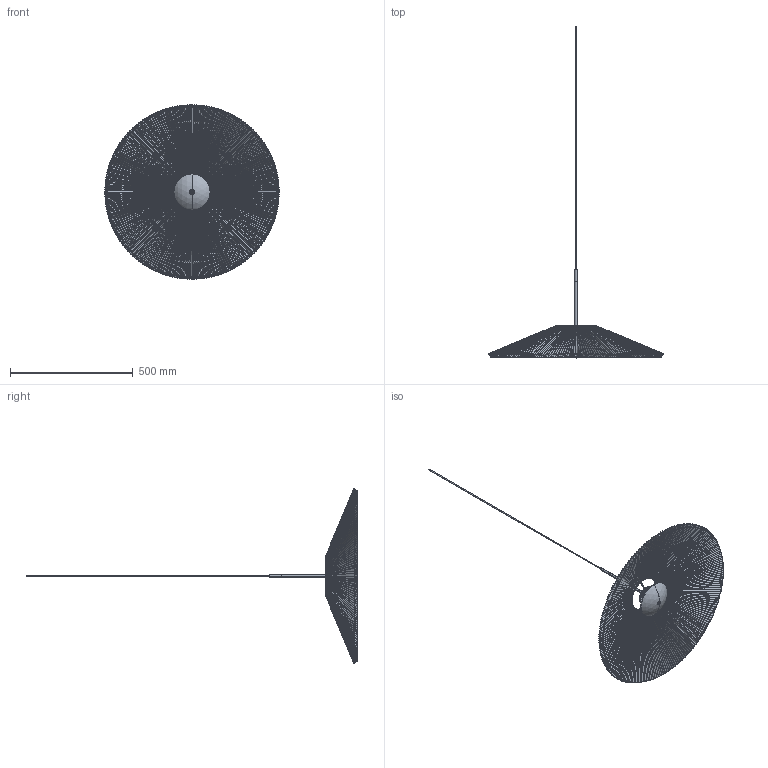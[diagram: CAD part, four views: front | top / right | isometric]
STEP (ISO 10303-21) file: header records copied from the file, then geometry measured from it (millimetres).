
FILE_DESCRIPTION (( 'STEP AP214' ), '1' );
FILE_NAME ('Nebra Small.STEP', '2024-01-24T11:53:32', ( '' ), ( '' ), 'SwSTEP 2.0', 'SolidWorks 2023', '' );
FILE_SCHEMA (( 'AUTOMOTIVE_DESIGN' ));
Length unit declared in the file: millimetre
Products named in the file (3): Pendant fitting; Pendant Shade Small; Nebra Small
Assembly tree (2 placements, depth 2):
  Nebra Small
    Pendant Shade Small
    Pendant fitting
Bounding box: 709.91 x 1349.33 x 709.91 mm (x, y, z)
Volume: 644807.8 mm3; surface area: 6033369.6 mm2
Topology: 235 solids, 235 shells, 4699 faces, 11347 edges, 7347 vertices
Faces by surface type: bspline 2090, plane 1829, cylinder 406, torus 150, cone 128, sphere 96
Entity records: 237776 total; most frequent: CARTESIAN_POINT 143664, ORIENTED_EDGE 22694, DIRECTION 11538, EDGE_CURVE 11347, VERTEX_POINT 7347, B_SPLINE_CURVE_WITH_KNOTS 6040, EDGE_LOOP 4966, ADVANCED_FACE 4699
